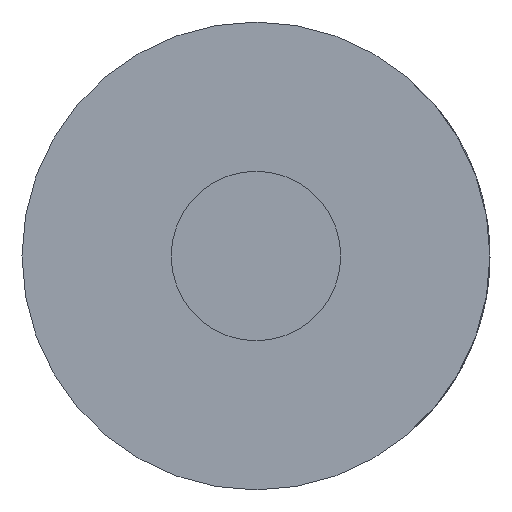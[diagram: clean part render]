
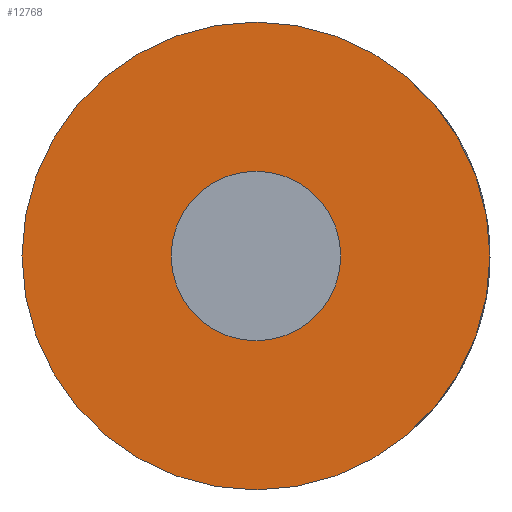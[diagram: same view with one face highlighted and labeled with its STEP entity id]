
A CAD part, front view. The second image highlights one B-rep face of the part: STEP entity #12768.
In plain terms, the highlighted planar face has unit normal (0, -1, 0).
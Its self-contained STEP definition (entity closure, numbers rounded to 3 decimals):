
#719 = DIRECTION ( 'NONE',  ( 0., 0., -1. ) ) ;
#831 = AXIS2_PLACEMENT_3D ( 'NONE', #12799, #1000, #719 ) ;
#891 = DIRECTION ( 'NONE',  ( 0., 0., -1. ) ) ;
#1000 = DIRECTION ( 'NONE',  ( 0., -1., 0. ) ) ;
#1024 = CIRCLE ( 'NONE', #6332, 14.5 ) ;
#1246 = VERTEX_POINT ( 'NONE', #4192 ) ;
#1322 = CIRCLE ( 'NONE', #831, 14.5 ) ;
#1808 = ORIENTED_EDGE ( 'NONE', *, *, #8154, .T. ) ;
#2363 = ORIENTED_EDGE ( 'NONE', *, *, #12792, .T. ) ;
#2368 = CARTESIAN_POINT ( 'NONE',  ( 0., 0., 0. ) ) ;
#4192 = CARTESIAN_POINT ( 'NONE',  ( 0., 0., 40. ) ) ;
#4341 = CIRCLE ( 'NONE', #13235, 40. ) ;
#4519 = CARTESIAN_POINT ( 'NONE',  ( 0., 0., -14.5 ) ) ;
#5224 = ORIENTED_EDGE ( 'NONE', *, *, #11319, .F. ) ;
#5348 = CIRCLE ( 'NONE', #13233, 40. ) ;
#5398 = CARTESIAN_POINT ( 'NONE',  ( 0., 0., -14.5 ) ) ;
#5904 = EDGE_CURVE ( 'NONE', #12568, #9946, #1024, .T. ) ;
#6074 = VERTEX_POINT ( 'NONE', #10381 ) ;
#6317 = CARTESIAN_POINT ( 'NONE',  ( 0., 0., 0. ) ) ;
#6332 = AXIS2_PLACEMENT_3D ( 'NONE', #2368, #7367, #12219 ) ;
#6833 = ORIENTED_EDGE ( 'NONE', *, *, #5904, .F. ) ;
#7367 = DIRECTION ( 'NONE',  ( 0., -1., 0. ) ) ;
#7761 = DIRECTION ( 'NONE',  ( 0., 0., -1. ) ) ;
#7905 = AXIS2_PLACEMENT_3D ( 'NONE', #4519, #9252, #891 ) ;
#8124 = FACE_OUTER_BOUND ( 'NONE', #10713, .T. ) ;
#8154 = EDGE_CURVE ( 'NONE', #1246, #6074, #5348, .T. ) ;
#9252 = DIRECTION ( 'NONE',  ( 0., -1., 0. ) ) ;
#9946 = VERTEX_POINT ( 'NONE', #10676 ) ;
#10381 = CARTESIAN_POINT ( 'NONE',  ( 0., 0., -40. ) ) ;
#10676 = CARTESIAN_POINT ( 'NONE',  ( 0., 0., 14.5 ) ) ;
#10713 = EDGE_LOOP ( 'NONE', ( #2363, #1808 ) ) ;
#11020 = EDGE_LOOP ( 'NONE', ( #6833, #5224 ) ) ;
#11319 = EDGE_CURVE ( 'NONE', #9946, #12568, #1322, .T. ) ;
#11637 = CARTESIAN_POINT ( 'NONE',  ( 0., 0., 0. ) ) ;
#11783 = PLANE ( 'NONE',  #7905 ) ;
#11862 = FACE_BOUND ( 'NONE', #11020, .T. ) ;
#12219 = DIRECTION ( 'NONE',  ( 0., 0., -1. ) ) ;
#12568 = VERTEX_POINT ( 'NONE', #5398 ) ;
#12768 = ADVANCED_FACE ( 'NONE', ( #8124, #11862 ), #11783, .T. ) ;
#12792 = EDGE_CURVE ( 'NONE', #6074, #1246, #4341, .T. ) ;
#12799 = CARTESIAN_POINT ( 'NONE',  ( 0., 0., 0. ) ) ;
#12823 = DIRECTION ( 'NONE',  ( 0., -1., 0. ) ) ;
#12896 = DIRECTION ( 'NONE',  ( 0., 0., -1. ) ) ;
#13233 = AXIS2_PLACEMENT_3D ( 'NONE', #6317, #15085, #7761 ) ;
#13235 = AXIS2_PLACEMENT_3D ( 'NONE', #11637, #12823, #12896 ) ;
#15085 = DIRECTION ( 'NONE',  ( 0., -1., 0. ) ) ;
